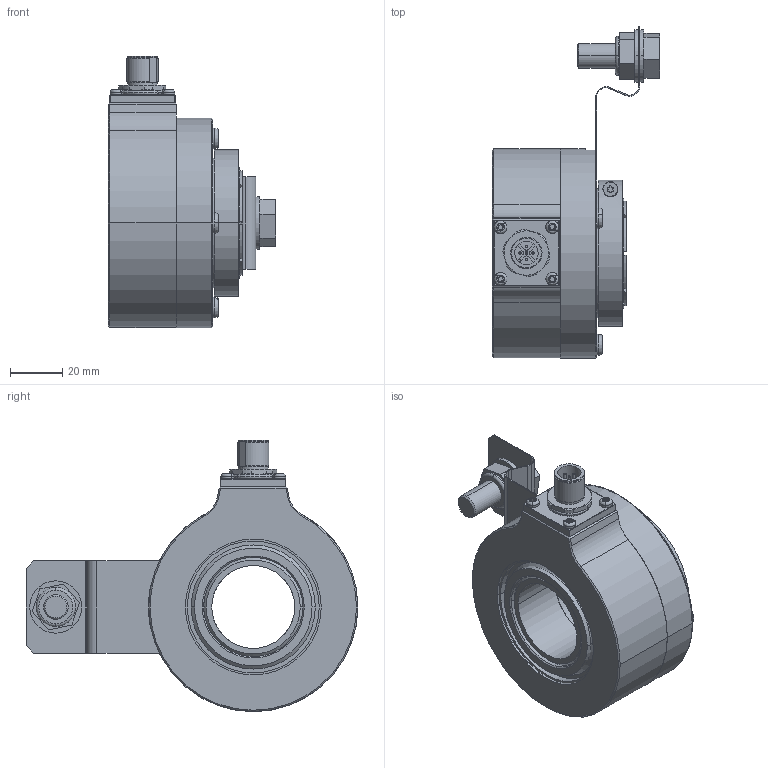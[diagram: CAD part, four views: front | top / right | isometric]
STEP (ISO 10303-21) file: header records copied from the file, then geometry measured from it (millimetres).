
FILE_DESCRIPTION (( 'STEP AP203' ), '1' );
FILE_NAME ('K80I.OXX.XXXXX.XH2489A.6XRC3.step', '2025-12-09T10:52:36', ( '' ), ( '' ), 'SwSTEP 2.0', 'SolidWorks 2021', '' );
FILE_SCHEMA (( 'CONFIG_CONTROL_DESIGN' ));
Length unit declared in the file: millimetre
Products named in the file (1): K80I.OXX.XXXXX.XH2489A.6XRC3
Bounding box: 63.95 x 127.03 x 103.88 mm (x, y, z)
Surface area: 81273.4 mm2 (no closed solid volume)
Topology: 0 solids, 16 shells, 684 faces, 1741 edges, 1120 vertices
Faces by surface type: cylinder 335, plane 246, cone 61, bspline 30, torus 12
Entity records: 23777 total; most frequent: CARTESIAN_POINT 6857, DIRECTION 3684, ORIENTED_EDGE 3450, EDGE_CURVE 1733, AXIS2_PLACEMENT_3D 1453, VERTEX_POINT 1120, CIRCLE 798, VECTOR 778
